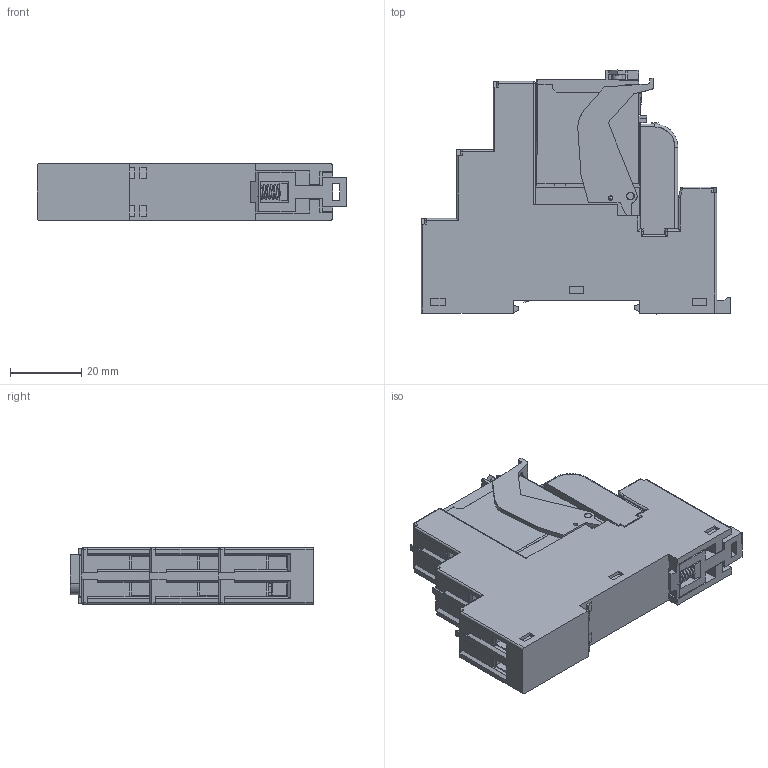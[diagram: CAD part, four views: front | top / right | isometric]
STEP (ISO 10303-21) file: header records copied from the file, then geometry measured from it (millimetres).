
FILE_DESCRIPTION(('STEP AP214'),'2;1');
FILE_NAME('4C_02.stp','2014-01-09T10:40:56',(''),(''),'2007.1.106','THINKDESIGN','');
FILE_SCHEMA(('AUTOMOTIVE_DESIGN'));
Length unit declared in the file: millimetre
Products named in the file (1): top
Bounding box: 86.85 x 68.35 x 15.8 mm (x, y, z)
Surface area: 24926.9 mm2 (no closed solid volume)
Topology: 0 solids, 0 shells, 1163 faces, 6532 edges, 6509 vertices
Faces by surface type: plane 897, cylinder 159, bspline 107
Full cylindrical faces by diameter (mm): 1.2 x2, 1.3 x8, 2 x3, 2.2 x2, 3 x3, 3.2 x1, 4.7 x8, 5 x8
Entity records: 56805 total; most frequent: CARTESIAN_POINT 18858, DIRECTION 8154, COMPOSITE_CURVE_SEGMENT 6532, TRIMMED_CURVE 5669, VECTOR 5338, LINE 5338, AXIS2_PLACEMENT_3D 1408, OUTER_BOUNDARY_CURVE 1162
